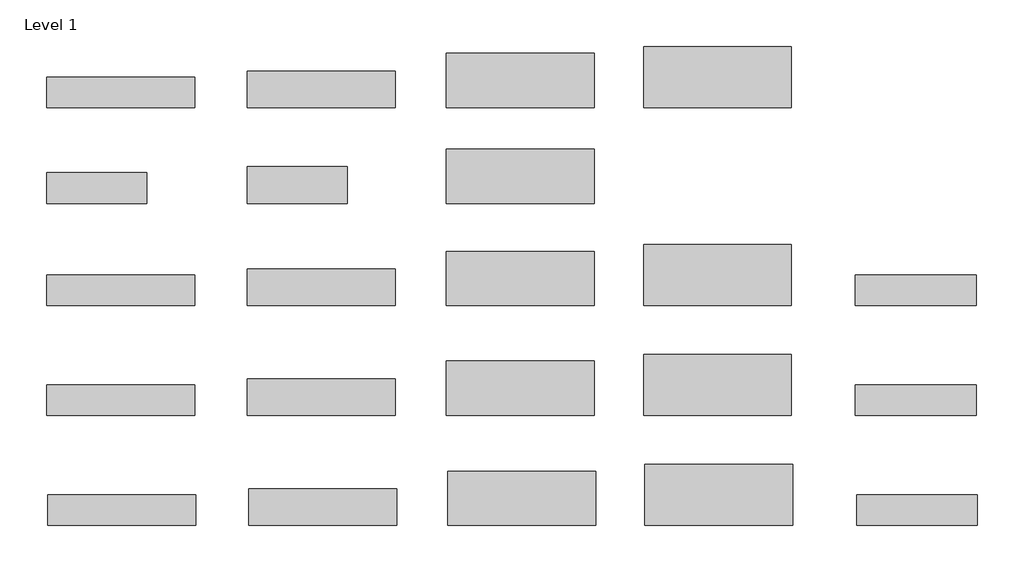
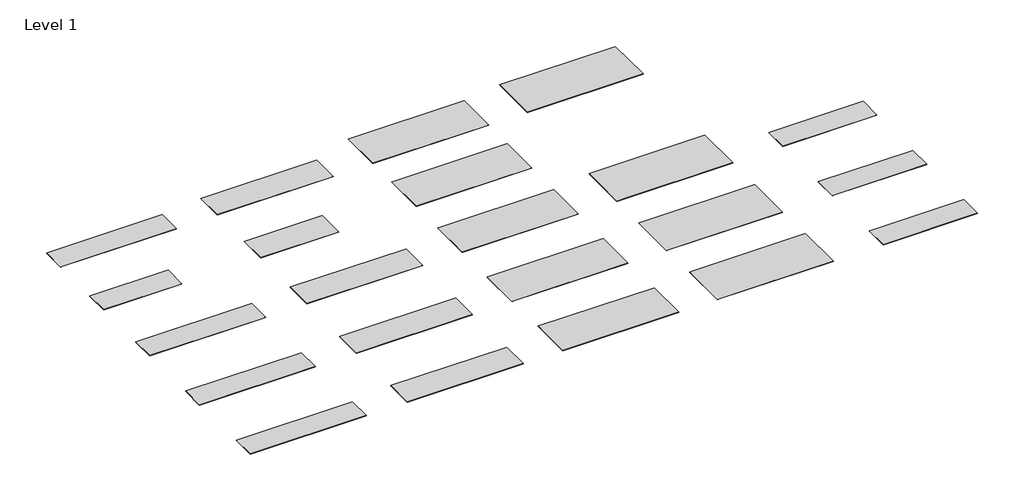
# One storey: 22 proxies.
"""IFC4 building model written with IfcOpenShell, lengths in millimetres."""

from ifc_helpers import new_model, si_unit, origin, place, context, project, spatial, transform, mapped, element, save
from components import g004_white_quartz_12mm_1520x3680mm_bc4f7f2a, g004_white_quartz_12mm_1350x3680mm_c2ce3097, g004_white_quartz_12mm_910x3680mm_ebb0e17e, generic_models_a6e596b7, g004_white_quartz_12mm_760x3680mm_7f56e2ab, g004_white_quartz_6mm_760x2490mm_c0a7b58a, g004_white_quartz_6mm_910x2490mm_29e5721c

model = new_model("IFC4")

# Units and contexts
model_context = context("Model", 3, world=origin())
ifc_project = project(units=[si_unit("LENGTHUNIT", "METRE", prefix="MILLI")], contexts=[model_context])

# Site, building, storey
site = spatial("IfcSite", under=ifc_project)
building = spatial("IfcBuilding", under=site)
storey = spatial("IfcBuildingStorey", under=building, Name="Level 1", Elevation=0.0)

# Proxies
placement = place(None, origin())
g004_white_quartz_12mm_1520x3680mm_shape = g004_white_quartz_12mm_1520x3680mm_bc4f7f2a(model_context)
element("IfcBuildingElementProxy", 1, Name="Kitchen_Counter-Tops_Indoor-Materials_HIMACS_Quartz : G038_Sea-Oat-Quartz_12mm_1520x3680mm", ObjectType="Kitchen_Counter-Tops_Indoor-Materials_HIMACS_Quartz : G038_Sea-Oat-Quartz_12mm_1520x3680mm", at=placement, inside=storey, context=model_context, shape_type="MappedRepresentation", body=[
    mapped(g004_white_quartz_12mm_1520x3680mm_shape, transform((-5923.58465, -17046.5177691, 0.0), x_axis=(1.0, 0.0, 0.0), y_axis=(0.0, 1.0, 0.0), z_axis=(0.0, 0.0, 1.0))),
])
g004_white_quartz_12mm_1350x3680mm_shape = g004_white_quartz_12mm_1350x3680mm_c2ce3097(model_context)
element("IfcBuildingElementProxy", 2, Name="Kitchen_Counter-Tops_Indoor-Materials_HIMACS_Quartz : G038_Sea-Oat-Quartz_12mm_1350x3680mm", ObjectType="Kitchen_Counter-Tops_Indoor-Materials_HIMACS_Quartz : G038_Sea-Oat-Quartz_12mm_1350x3680mm", at=placement, inside=storey, context=model_context, shape_type="MappedRepresentation", body=[
    mapped(g004_white_quartz_12mm_1350x3680mm_shape, transform((-10832.2323535, -17131.5177691, 0.0), x_axis=(1.0, 0.0, 0.0), y_axis=(0.0, 1.0, 0.0), z_axis=(0.0, 0.0, 1.0))),
])
g004_white_quartz_12mm_910x3680mm_shape = g004_white_quartz_12mm_910x3680mm_ebb0e17e(model_context)
element("IfcBuildingElementProxy", 3, Name="Kitchen_Counter-Tops_Indoor-Materials_HIMACS_Quartz : G038_Sea-Oat-Quartz_12mm_910x3680mm", ObjectType="Kitchen_Counter-Tops_Indoor-Materials_HIMACS_Quartz : G038_Sea-Oat-Quartz_12mm_910x3680mm", at=placement, inside=storey, context=model_context, shape_type="MappedRepresentation", body=[
    mapped(g004_white_quartz_12mm_910x3680mm_shape, transform((-15778.0816151, -17351.5177691, 0.0), x_axis=(1.0, 0.0, 0.0), y_axis=(0.0, 1.0, 0.0), z_axis=(0.0, 0.0, 1.0))),
])
element("IfcBuildingElementProxy", 4, Name="Kitchen_Counter-Tops_Indoor-Materials_HIMACS_Quartz : G058_Moonscape-Quartz_12mm_1520x3680mm", ObjectType="Kitchen_Counter-Tops_Indoor-Materials_HIMACS_Quartz : G058_Moonscape-Quartz_12mm_1520x3680mm", at=placement, inside=storey, context=model_context, shape_type="MappedRepresentation", body=[
    mapped(g004_white_quartz_12mm_1520x3680mm_shape, transform((-5958.4469471, -14303.4950474, 0.0), x_axis=(1.0, 0.0, 0.0), y_axis=(0.0, 1.0, 0.0), z_axis=(0.0, 0.0, 1.0))),
])
element("IfcBuildingElementProxy", 5, Name="Kitchen_Counter-Tops_Indoor-Materials_HIMACS_Quartz : G058_Moonscape-Quartz_12mm_1350x3680mm", ObjectType="Kitchen_Counter-Tops_Indoor-Materials_HIMACS_Quartz : G058_Moonscape-Quartz_12mm_1350x3680mm", at=placement, inside=storey, context=model_context, shape_type="MappedRepresentation", body=[
    mapped(g004_white_quartz_12mm_1350x3680mm_shape, transform((-10867.0946506, -14388.4950474, 0.0), x_axis=(1.0, 0.0, 0.0), y_axis=(0.0, 1.0, 0.0), z_axis=(0.0, 0.0, 1.0))),
])
element("IfcBuildingElementProxy", 6, Name="Kitchen_Counter-Tops_Indoor-Materials_HIMACS_Quartz : G058_Moonscape-Quartz_12mm_910x3680mm", ObjectType="Kitchen_Counter-Tops_Indoor-Materials_HIMACS_Quartz : G058_Moonscape-Quartz_12mm_910x3680mm", at=placement, inside=storey, context=model_context, shape_type="MappedRepresentation", body=[
    mapped(g004_white_quartz_12mm_910x3680mm_shape, transform((-15812.9439122, -14608.4950474, 0.0), x_axis=(1.0, 0.0, 0.0), y_axis=(0.0, 1.0, 0.0), z_axis=(0.0, 0.0, 1.0))),
])
generic_models_shape = generic_models_a6e596b7(model_context)
element("IfcBuildingElementProxy", 7, Name="Kitchen_Counter-Tops_Indoor-Materials_HIMACS_Quartz : G038_Sea-Oat-Quartz_20mm_760x3000mm", ObjectType="Kitchen_Counter-Tops_Indoor-Materials_HIMACS_Quartz : G038_Sea-Oat-Quartz_20mm_760x3000mm", at=placement, inside=storey, context=model_context, shape_type="MappedRepresentation", body=[
    mapped(generic_models_shape, transform((-992.420214, -17426.5177691, 0.0), x_axis=(1.0, 0.0, 0.0), y_axis=(0.0, 1.0, 0.0), z_axis=(0.0, 0.0, 1.0))),
])
element("IfcBuildingElementProxy", 8, Name="Kitchen_Counter-Tops_Indoor-Materials_HIMACS_Quartz : G058_Moonscape-Quartz_20mm_760x3000mm", ObjectType="Kitchen_Counter-Tops_Indoor-Materials_HIMACS_Quartz : G058_Moonscape-Quartz_20mm_760x3000mm", at=placement, inside=storey, context=model_context, shape_type="MappedRepresentation", body=[
    mapped(generic_models_shape, transform((-1027.2825111, -14683.4950474, 0.0), x_axis=(1.0, 0.0, 0.0), y_axis=(0.0, 1.0, 0.0), z_axis=(0.0, 0.0, 1.0))),
])
g004_white_quartz_12mm_760x3680mm_shape = g004_white_quartz_12mm_760x3680mm_7f56e2ab(model_context)
element("IfcBuildingElementProxy", 9, Name="Kitchen_Counter-Tops_Indoor-Materials_HIMACS_Quartz : G038_Sea-Oat-Quartz_12mm_760x3680mm", ObjectType="Kitchen_Counter-Tops_Indoor-Materials_HIMACS_Quartz : G038_Sea-Oat-Quartz_12mm_760x3680mm", at=placement, inside=storey, context=model_context, shape_type="MappedRepresentation", body=[
    mapped(g004_white_quartz_12mm_760x3680mm_shape, transform((-20770.9223187, -17426.5177691, 0.0), x_axis=(1.0, 0.0, 0.0), y_axis=(0.0, 1.0, 0.0), z_axis=(0.0, 0.0, 1.0))),
])
element("IfcBuildingElementProxy", 10, Name="Kitchen_Counter-Tops_Indoor-Materials_HIMACS_Quartz : G058_Moonscape-Quartz_12mm_760x3680mm", ObjectType="Kitchen_Counter-Tops_Indoor-Materials_HIMACS_Quartz : G058_Moonscape-Quartz_12mm_760x3680mm", at=placement, inside=storey, context=model_context, shape_type="MappedRepresentation", body=[
    mapped(g004_white_quartz_12mm_760x3680mm_shape, transform((-20805.7846158, -14683.4950474, 0.0), x_axis=(1.0, 0.0, 0.0), y_axis=(0.0, 1.0, 0.0), z_axis=(0.0, 0.0, 1.0))),
])
element("IfcBuildingElementProxy", 11, Name="Kitchen_Counter-Tops_Indoor-Materials_HIMACS_Quartz : G004_White-Quartz_12mm_1350x3680mm", ObjectType="Kitchen_Counter-Tops_Indoor-Materials_HIMACS_Quartz : G004_White-Quartz_12mm_1350x3680mm", at=placement, inside=storey, context=model_context, shape_type="MappedRepresentation", body=[
    mapped(g004_white_quartz_12mm_1350x3680mm_shape, transform((-10867.0946506, -6727.8166493, 0.0), x_axis=(1.0, 0.0, 0.0), y_axis=(0.0, 1.0, 0.0), z_axis=(0.0, 0.0, 1.0))),
])
element("IfcBuildingElementProxy", 12, Name="Kitchen_Counter-Tops_Indoor-Materials_HIMACS_Quartz : G004_White-Quartz_12mm_1520x3680mm", ObjectType="Kitchen_Counter-Tops_Indoor-Materials_HIMACS_Quartz : G004_White-Quartz_12mm_1520x3680mm", at=placement, inside=storey, context=model_context, shape_type="MappedRepresentation", body=[
    mapped(g004_white_quartz_12mm_1520x3680mm_shape, transform((-5958.4469471, -6642.8166493, 0.0), x_axis=(1.0, 0.0, 0.0), y_axis=(0.0, 1.0, 0.0), z_axis=(0.0, 0.0, 1.0))),
])
element("IfcBuildingElementProxy", 13, Name="Kitchen_Counter-Tops_Indoor-Materials_HIMACS_Quartz : G004_White-Quartz_12mm_760x3680mm", ObjectType="Kitchen_Counter-Tops_Indoor-Materials_HIMACS_Quartz : G004_White-Quartz_12mm_760x3680mm", at=placement, inside=storey, context=model_context, shape_type="MappedRepresentation", body=[
    mapped(g004_white_quartz_12mm_760x3680mm_shape, transform((-20805.7846158, -7027.8166493, 0.0), x_axis=(1.0, 0.0, 0.0), y_axis=(0.0, 1.0, 0.0), z_axis=(0.0, 0.0, 1.0))),
])
element("IfcBuildingElementProxy", 14, Name="Kitchen_Counter-Tops_Indoor-Materials_HIMACS_Quartz : G004_White-Quartz_12mm_910x3680mm", ObjectType="Kitchen_Counter-Tops_Indoor-Materials_HIMACS_Quartz : G004_White-Quartz_12mm_910x3680mm", at=placement, inside=storey, context=model_context, shape_type="MappedRepresentation", body=[
    mapped(g004_white_quartz_12mm_910x3680mm_shape, transform((-15812.9439122, -6947.8166493, 0.0), x_axis=(1.0, 0.0, 0.0), y_axis=(0.0, 1.0, 0.0), z_axis=(0.0, 0.0, 1.0))),
])
element("IfcBuildingElementProxy", 15, Name="Kitchen_Counter-Tops_Indoor-Materials_HIMACS_Quartz : G004_White-Quartz_6mm_1350x3680mm", ObjectType="Kitchen_Counter-Tops_Indoor-Materials_HIMACS_Quartz : G004_White-Quartz_6mm_1350x3680mm", at=placement, inside=storey, context=model_context, shape_type="MappedRepresentation", body=[
    mapped(g004_white_quartz_12mm_1350x3680mm_shape, transform((-10867.0946506, -9111.9594551, 0.0), x_axis=(1.0, 0.0, 0.0), y_axis=(0.0, 1.0, 0.0), z_axis=(0.0, 0.0, 1.0))),
])
g004_white_quartz_6mm_760x2490mm_shape = g004_white_quartz_6mm_760x2490mm_c0a7b58a(model_context)
element("IfcBuildingElementProxy", 16, Name="Kitchen_Counter-Tops_Indoor-Materials_HIMACS_Quartz : G004_White-Quartz_6mm_760x2490mm", ObjectType="Kitchen_Counter-Tops_Indoor-Materials_HIMACS_Quartz : G004_White-Quartz_6mm_760x2490mm", at=placement, inside=storey, context=model_context, shape_type="MappedRepresentation", body=[
    mapped(g004_white_quartz_6mm_760x2490mm_shape, transform((-21400.7846158, -9406.9594551, 0.0), x_axis=(1.0, 0.0, 0.0), y_axis=(0.0, 1.0, 0.0), z_axis=(0.0, 0.0, 1.0))),
])
g004_white_quartz_6mm_910x2490mm_shape = g004_white_quartz_6mm_910x2490mm_29e5721c(model_context)
element("IfcBuildingElementProxy", 17, Name="Kitchen_Counter-Tops_Indoor-Materials_HIMACS_Quartz : G004_White-Quartz_6mm_910x2490mm", ObjectType="Kitchen_Counter-Tops_Indoor-Materials_HIMACS_Quartz : G004_White-Quartz_6mm_910x2490mm", at=placement, inside=storey, context=model_context, shape_type="MappedRepresentation", body=[
    mapped(g004_white_quartz_6mm_910x2490mm_shape, transform((-16407.9439122, -9331.9594551, 0.0), x_axis=(1.0, 0.0, 0.0), y_axis=(0.0, 1.0, 0.0), z_axis=(0.0, 0.0, 1.0))),
])
element("IfcBuildingElementProxy", 18, Name="Kitchen_Counter-Tops_Indoor-Materials_HIMACS_Quartz : G101_Crystal-Beige_12mm_1350x3680mm", ObjectType="Kitchen_Counter-Tops_Indoor-Materials_HIMACS_Quartz : G101_Crystal-Beige_12mm_1350x3680mm", at=placement, inside=storey, context=model_context, shape_type="MappedRepresentation", body=[
    mapped(g004_white_quartz_12mm_1350x3680mm_shape, transform((-10867.0946506, -11657.3744652, 0.0), x_axis=(1.0, 0.0, 0.0), y_axis=(0.0, 1.0, 0.0), z_axis=(0.0, 0.0, 1.0))),
])
element("IfcBuildingElementProxy", 19, Name="Kitchen_Counter-Tops_Indoor-Materials_HIMACS_Quartz : G101_Crystal-Beige_12mm_1520x3680mm", ObjectType="Kitchen_Counter-Tops_Indoor-Materials_HIMACS_Quartz : G101_Crystal-Beige_12mm_1520x3680mm", at=placement, inside=storey, context=model_context, shape_type="MappedRepresentation", body=[
    mapped(g004_white_quartz_12mm_1520x3680mm_shape, transform((-5958.4469471, -11572.3744652, 0.0), x_axis=(1.0, 0.0, 0.0), y_axis=(0.0, 1.0, 0.0), z_axis=(0.0, 0.0, 1.0))),
])
element("IfcBuildingElementProxy", 20, Name="Kitchen_Counter-Tops_Indoor-Materials_HIMACS_Quartz : G101_Crystal-Beige_12mm_760x3680mm", ObjectType="Kitchen_Counter-Tops_Indoor-Materials_HIMACS_Quartz : G101_Crystal-Beige_12mm_760x3680mm", at=placement, inside=storey, context=model_context, shape_type="MappedRepresentation", body=[
    mapped(g004_white_quartz_12mm_760x3680mm_shape, transform((-20805.7846158, -11952.3744652, 0.0), x_axis=(1.0, 0.0, 0.0), y_axis=(0.0, 1.0, 0.0), z_axis=(0.0, 0.0, 1.0))),
])
element("IfcBuildingElementProxy", 21, Name="Kitchen_Counter-Tops_Indoor-Materials_HIMACS_Quartz : G101_Crystal-Beige_12mm_910x3680mm", ObjectType="Kitchen_Counter-Tops_Indoor-Materials_HIMACS_Quartz : G101_Crystal-Beige_12mm_910x3680mm", at=placement, inside=storey, context=model_context, shape_type="MappedRepresentation", body=[
    mapped(g004_white_quartz_12mm_910x3680mm_shape, transform((-15812.9439122, -11877.3744652, 0.0), x_axis=(1.0, 0.0, 0.0), y_axis=(0.0, 1.0, 0.0), z_axis=(0.0, 0.0, 1.0))),
])
element("IfcBuildingElementProxy", 22, Name="Kitchen_Counter-Tops_Indoor-Materials_HIMACS_Quartz : G101_Crystal-Beige_20mm_760x3000mm", ObjectType="Kitchen_Counter-Tops_Indoor-Materials_HIMACS_Quartz : G101_Crystal-Beige_20mm_760x3000mm", at=placement, inside=storey, context=model_context, shape_type="MappedRepresentation", body=[
    mapped(generic_models_shape, transform((-1027.2825111, -11952.3744652, 0.0), x_axis=(1.0, 0.0, 0.0), y_axis=(0.0, 1.0, 0.0), z_axis=(0.0, 0.0, 1.0))),
])

save(model, "model.ifc")
